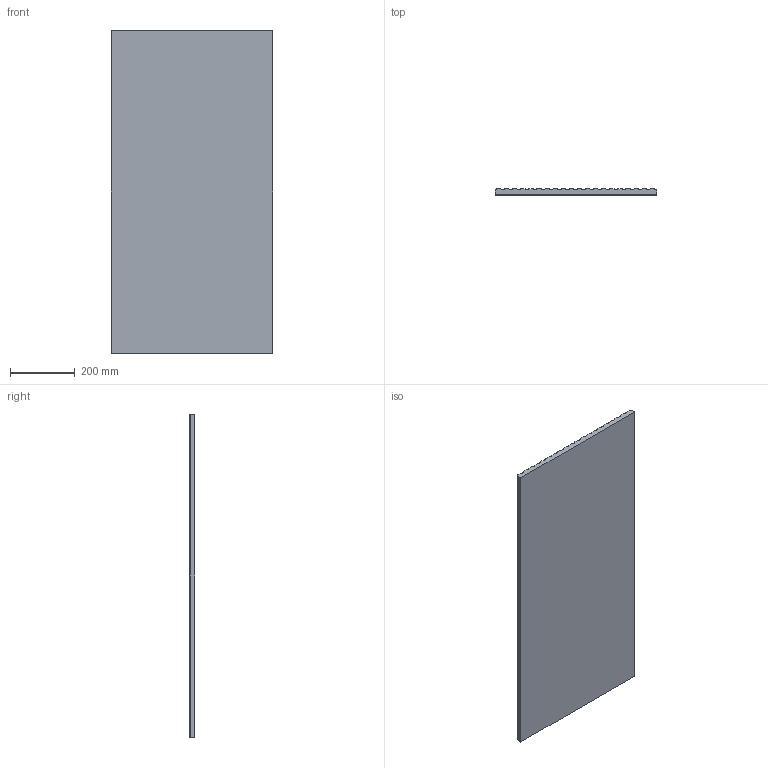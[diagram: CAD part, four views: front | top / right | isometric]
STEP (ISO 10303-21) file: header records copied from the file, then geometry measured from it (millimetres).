
FILE_DESCRIPTION(/* description */ (''),/* implementation_level */ '2;1');
FILE_NAME(/* name */ 'W105.stp',/* time_stamp */ '2024-06-11T15:47:06+02:00',/* author */ ('bzsolt'),/* organization */ (''),/* preprocessor_version */ 'ST-DEVELOPER v20',/* originating_system */ 'Autodesk Inventor 2025',/* authorisation */ '');
FILE_SCHEMA (('AUTOMOTIVE_DESIGN { 1 0 10303 214 3 1 1 }'));
Length unit declared in the file: millimetre
Products named in the file (1): W105
Bounding box: 500 x 18 x 1000 mm (x, y, z)
Volume: 8529575.3 mm3; surface area: 1081527.2 mm2
Topology: 1 solids, 1 shells, 258 faces, 520 edges, 264 vertices
Faces by surface type: cylinder 107, sphere 80, torus 42, plane 25, bspline 4
Entity records: 6733 total; most frequent: DIRECTION 1358, CARTESIAN_POINT 1185, ORIENTED_EDGE 1040, AXIS2_PLACEMENT_3D 591, EDGE_CURVE 520, CIRCLE 336, VERTEX_POINT 264, FACE_OUTER_BOUND 258
